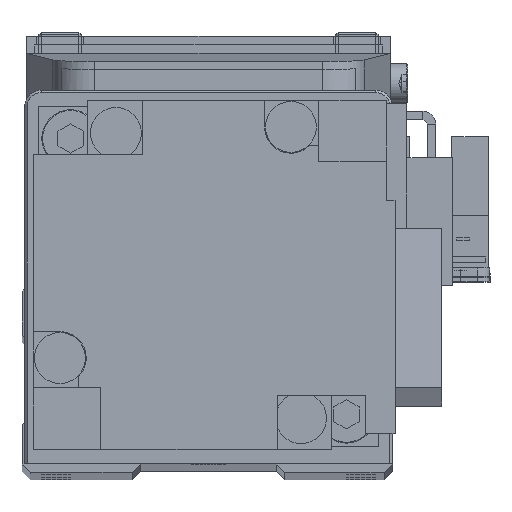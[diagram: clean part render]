
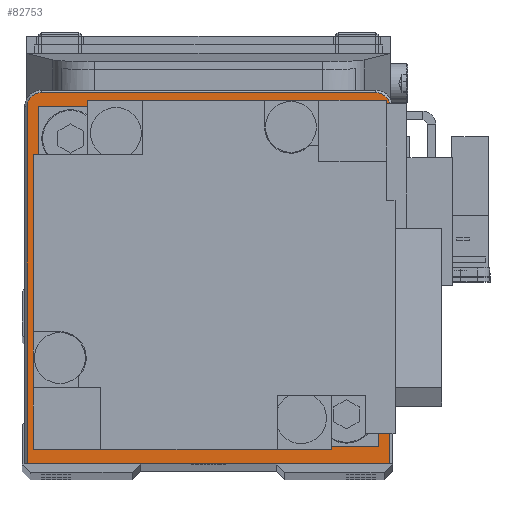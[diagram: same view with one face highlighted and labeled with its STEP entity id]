
A CAD part, top view. The second image highlights one B-rep face of the part: STEP entity #82753.
In plain terms, the highlighted planar face has unit normal (0, 0, 1).
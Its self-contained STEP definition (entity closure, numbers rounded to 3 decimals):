
#122 = VERTEX_POINT ( 'NONE', #21829 ) ;
#383 = VERTEX_POINT ( 'NONE', #31452 ) ;
#384 = CIRCLE ( 'NONE', #13936, 1.7 ) ;
#3653 = VECTOR ( 'NONE', #37375, 1000. ) ;
#4377 = VERTEX_POINT ( 'NONE', #77641 ) ;
#4761 = FACE_BOUND ( 'NONE', #17646, .T. ) ;
#5769 = CIRCLE ( 'NONE', #39786, 10. ) ;
#6367 = CARTESIAN_POINT ( 'NONE',  ( 10., 15.026, 309. ) ) ;
#7471 = ORIENTED_EDGE ( 'NONE', *, *, #82376, .F. ) ;
#8933 = CIRCLE ( 'NONE', #69518, 10. ) ;
#9290 = CARTESIAN_POINT ( 'NONE',  ( -19.7, 36.726, 309. ) ) ;
#10584 = VECTOR ( 'NONE', #17582, 1000. ) ;
#13088 = CARTESIAN_POINT ( 'NONE',  ( -10., 15.026, 309. ) ) ;
#13724 = VERTEX_POINT ( 'NONE', #54030 ) ;
#13936 = AXIS2_PLACEMENT_3D ( 'NONE', #68798, #42351, #49326 ) ;
#14909 = CARTESIAN_POINT ( 'NONE',  ( 0., 15.026, 309. ) ) ;
#15330 = DIRECTION ( 'NONE',  ( 1., 0., 0. ) ) ;
#15755 = FACE_OUTER_BOUND ( 'NONE', #37630, .T. ) ;
#16099 = CARTESIAN_POINT ( 'NONE',  ( -21.7, -6.974, 309. ) ) ;
#16331 = CARTESIAN_POINT ( 'NONE',  ( 0., 15.026, 309. ) ) ;
#16846 = AXIS2_PLACEMENT_3D ( 'NONE', #40359, #66211, #15330 ) ;
#17033 = LINE ( 'NONE', #16099, #31948 ) ;
#17582 = DIRECTION ( 'NONE',  ( 0., -1., 0. ) ) ;
#17646 = EDGE_LOOP ( 'NONE', ( #7471, #51252 ) ) ;
#18501 = CARTESIAN_POINT ( 'NONE',  ( -19.7, 36.726, 309. ) ) ;
#20021 = EDGE_CURVE ( 'NONE', #36964, #383, #53359, .T. ) ;
#20704 = LINE ( 'NONE', #18501, #3653 ) ;
#21829 = CARTESIAN_POINT ( 'NONE',  ( 21.4, -6.974, 309. ) ) ;
#21917 = VERTEX_POINT ( 'NONE', #6367 ) ;
#22374 = ORIENTED_EDGE ( 'NONE', *, *, #20021, .T. ) ;
#24233 = VERTEX_POINT ( 'NONE', #13088 ) ;
#24649 = EDGE_CURVE ( 'NONE', #70590, #122, #17033, .T. ) ;
#26425 = EDGE_CURVE ( 'NONE', #4377, #13724, #384, .T. ) ;
#26510 = DIRECTION ( 'NONE',  ( 0., 1., 0. ) ) ;
#26856 = ORIENTED_EDGE ( 'NONE', *, *, #34558, .T. ) ;
#27636 = DIRECTION ( 'NONE',  ( 0., 0., 1. ) ) ;
#27926 = DIRECTION ( 'NONE',  ( 1., 0., 0. ) ) ;
#31452 = CARTESIAN_POINT ( 'NONE',  ( -21.4, 35.026, 309. ) ) ;
#31884 = AXIS2_PLACEMENT_3D ( 'NONE', #14909, #27636, #27926 ) ;
#31948 = VECTOR ( 'NONE', #48368, 1000. ) ;
#33070 = EDGE_CURVE ( 'NONE', #122, #4377, #49053, .T. ) ;
#34558 = EDGE_CURVE ( 'NONE', #13724, #36964, #20704, .T. ) ;
#34680 = DIRECTION ( 'NONE',  ( 1., 0., 0. ) ) ;
#35837 = ORIENTED_EDGE ( 'NONE', *, *, #80473, .T. ) ;
#36964 = VERTEX_POINT ( 'NONE', #9290 ) ;
#37375 = DIRECTION ( 'NONE',  ( -1., 0., 0. ) ) ;
#37630 = EDGE_LOOP ( 'NONE', ( #56818, #57028, #75025, #26856, #22374, #35837 ) ) ;
#39786 = AXIS2_PLACEMENT_3D ( 'NONE', #75632, #49743, #62144 ) ;
#40359 = CARTESIAN_POINT ( 'NONE',  ( -19.7, 35.026, 309. ) ) ;
#42351 = DIRECTION ( 'NONE',  ( 0., 0., 1. ) ) ;
#48368 = DIRECTION ( 'NONE',  ( 1., 0., 0. ) ) ;
#49053 = LINE ( 'NONE', #65698, #50034 ) ;
#49326 = DIRECTION ( 'NONE',  ( 1., 0., 0. ) ) ;
#49743 = DIRECTION ( 'NONE',  ( 0., 0., 1. ) ) ;
#50034 = VECTOR ( 'NONE', #26510, 1000. ) ;
#51252 = ORIENTED_EDGE ( 'NONE', *, *, #72927, .F. ) ;
#53359 = CIRCLE ( 'NONE', #16846, 1.7 ) ;
#54030 = CARTESIAN_POINT ( 'NONE',  ( 19.7, 36.726, 309. ) ) ;
#56818 = ORIENTED_EDGE ( 'NONE', *, *, #24649, .T. ) ;
#57028 = ORIENTED_EDGE ( 'NONE', *, *, #33070, .T. ) ;
#62144 = DIRECTION ( 'NONE',  ( 1., 0., 0. ) ) ;
#64578 = CARTESIAN_POINT ( 'NONE',  ( -21.4, -6.974, 309. ) ) ;
#65698 = CARTESIAN_POINT ( 'NONE',  ( 21.4, 35.026, 309. ) ) ;
#66211 = DIRECTION ( 'NONE',  ( 0., 0., 1. ) ) ;
#66346 = PLANE ( 'NONE',  #31884 ) ;
#66972 = DIRECTION ( 'NONE',  ( 0., 0., 1. ) ) ;
#68485 = CARTESIAN_POINT ( 'NONE',  ( -21.4, -6.974, 309. ) ) ;
#68798 = CARTESIAN_POINT ( 'NONE',  ( 19.7, 35.026, 309. ) ) ;
#69518 = AXIS2_PLACEMENT_3D ( 'NONE', #16331, #66972, #34680 ) ;
#70590 = VERTEX_POINT ( 'NONE', #64578 ) ;
#72927 = EDGE_CURVE ( 'NONE', #21917, #24233, #5769, .T. ) ;
#75025 = ORIENTED_EDGE ( 'NONE', *, *, #26425, .T. ) ;
#75632 = CARTESIAN_POINT ( 'NONE',  ( 0., 15.026, 309. ) ) ;
#77641 = CARTESIAN_POINT ( 'NONE',  ( 21.4, 35.026, 309. ) ) ;
#80473 = EDGE_CURVE ( 'NONE', #383, #70590, #82675, .T. ) ;
#82376 = EDGE_CURVE ( 'NONE', #24233, #21917, #8933, .T. ) ;
#82675 = LINE ( 'NONE', #68485, #10584 ) ;
#82753 = ADVANCED_FACE ( 'NONE', ( #15755, #4761 ), #66346, .T. ) ;
